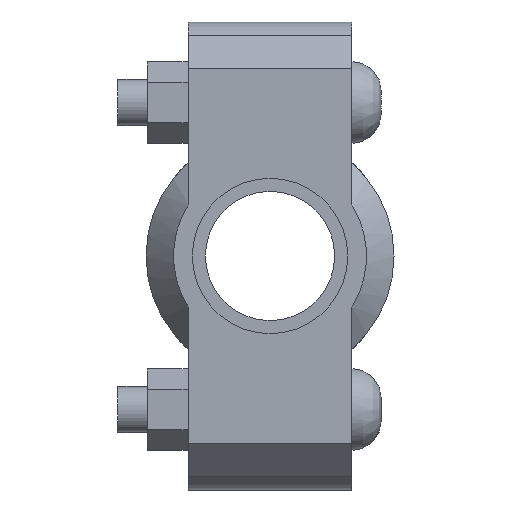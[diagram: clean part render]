
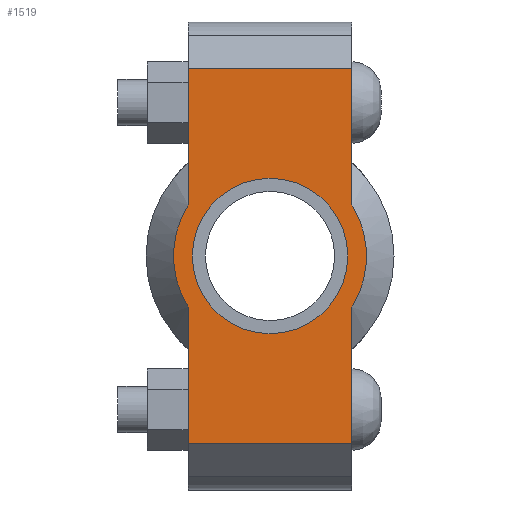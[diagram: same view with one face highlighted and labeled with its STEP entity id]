
A CAD part, left-side view. The second image highlights one B-rep face of the part: STEP entity #1519.
In plain terms, the highlighted planar face has unit normal (-1, 0, 0) as drawn and (0, 0, 1) by its records, which use the part's own axes.
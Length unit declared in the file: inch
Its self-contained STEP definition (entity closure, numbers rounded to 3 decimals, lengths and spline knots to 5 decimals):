
#130=LINE('',#2609,#225);
#145=LINE('',#2668,#240);
#153=LINE('',#2698,#248);
#155=LINE('',#2701,#250);
#156=LINE('',#2706,#251);
#157=LINE('',#2707,#252);
#225=VECTOR('',#2111,0.3937);
#240=VECTOR('',#2146,0.3937);
#248=VECTOR('',#2166,0.3937);
#250=VECTOR('',#2170,0.3937);
#251=VECTOR('',#2175,0.3937);
#252=VECTOR('',#2176,0.3937);
#312=FACE_BOUND('',#471,.T.);
#372=FACE_OUTER_BOUND('',#470,.T.);
#470=EDGE_LOOP('',(#1214,#1215,#1216,#1217,#1218,#1219,#1220,#1221));
#471=EDGE_LOOP('',(#1222));
#576=CIRCLE('',#1782,1.031);
#577=CIRCLE('',#1783,1.031);
#578=CIRCLE('',#1784,0.83);
#685=VERTEX_POINT('',#2606);
#686=VERTEX_POINT('',#2608);
#707=VERTEX_POINT('',#2663);
#708=VERTEX_POINT('',#2667);
#717=VERTEX_POINT('',#2693);
#718=VERTEX_POINT('',#2697);
#719=VERTEX_POINT('',#2703);
#720=VERTEX_POINT('',#2705);
#721=VERTEX_POINT('',#2709);
#855=EDGE_CURVE('',#686,#685,#130,.T.);
#880=EDGE_CURVE('',#708,#707,#145,.T.);
#893=EDGE_CURVE('',#718,#717,#153,.T.);
#895=EDGE_CURVE('',#718,#685,#155,.T.);
#896=EDGE_CURVE('',#717,#719,#576,.T.);
#897=EDGE_CURVE('',#719,#720,#156,.T.);
#898=EDGE_CURVE('',#708,#720,#157,.T.);
#899=EDGE_CURVE('',#707,#686,#577,.T.);
#900=EDGE_CURVE('',#721,#721,#578,.T.);
#1214=ORIENTED_EDGE('',*,*,#895,.F.);
#1215=ORIENTED_EDGE('',*,*,#893,.T.);
#1216=ORIENTED_EDGE('',*,*,#896,.T.);
#1217=ORIENTED_EDGE('',*,*,#897,.T.);
#1218=ORIENTED_EDGE('',*,*,#898,.F.);
#1219=ORIENTED_EDGE('',*,*,#880,.T.);
#1220=ORIENTED_EDGE('',*,*,#899,.T.);
#1221=ORIENTED_EDGE('',*,*,#855,.T.);
#1222=ORIENTED_EDGE('',*,*,#900,.T.);
#1371=PLANE('',#1781);
#1519=ADVANCED_FACE('',(#372,#312),#1371,.T.);
#1781=AXIS2_PLACEMENT_3D('',#2702,#2171,#2172);
#1782=AXIS2_PLACEMENT_3D('',#2704,#2173,#2174);
#1783=AXIS2_PLACEMENT_3D('',#2708,#2177,#2178);
#1784=AXIS2_PLACEMENT_3D('',#2710,#2179,#2180);
#2111=DIRECTION('',(1.,0.,0.));
#2146=DIRECTION('',(1.,0.,0.));
#2166=DIRECTION('',(-1.,0.,0.));
#2170=DIRECTION('',(0.,-1.,0.));
#2171=DIRECTION('center_axis',(0.,0.,1.));
#2172=DIRECTION('ref_axis',(-1.,0.,0.));
#2173=DIRECTION('center_axis',(0.,0.,1.));
#2174=DIRECTION('ref_axis',(1.,0.,0.));
#2175=DIRECTION('',(-1.,0.,0.));
#2176=DIRECTION('',(0.,1.,0.));
#2177=DIRECTION('center_axis',(0.,0.,1.));
#2178=DIRECTION('ref_axis',(1.,0.,0.));
#2179=DIRECTION('center_axis',(0.,0.,-1.));
#2180=DIRECTION('ref_axis',(1.,0.,0.));
#2606=CARTESIAN_POINT('',(2.,-0.875,0.94));
#2608=CARTESIAN_POINT('',(0.54529,-0.875,0.94));
#2609=CARTESIAN_POINT('',(-2.5,-0.875,0.94));
#2663=CARTESIAN_POINT('',(-0.54529,-0.875,0.94));
#2667=CARTESIAN_POINT('',(-2.,-0.875,0.94));
#2668=CARTESIAN_POINT('',(-2.5,-0.875,0.94));
#2693=CARTESIAN_POINT('',(0.54529,0.875,0.94));
#2697=CARTESIAN_POINT('',(2.,0.875,0.94));
#2698=CARTESIAN_POINT('',(2.5,0.875,0.94));
#2701=CARTESIAN_POINT('',(2.,-0.4375,0.94));
#2702=CARTESIAN_POINT('Origin',(0.,0.,
0.94));
#2703=CARTESIAN_POINT('',(-0.54529,0.875,0.94));
#2704=CARTESIAN_POINT('Origin',(0.,0.,0.94));
#2705=CARTESIAN_POINT('',(-2.,0.875,0.94));
#2706=CARTESIAN_POINT('',(2.5,0.875,0.94));
#2707=CARTESIAN_POINT('',(-2.,0.4375,0.94));
#2708=CARTESIAN_POINT('Origin',(0.,0.,0.94));
#2709=CARTESIAN_POINT('',(-0.83,0.,0.94));
#2710=CARTESIAN_POINT('Origin',(0.,0.,0.94));
